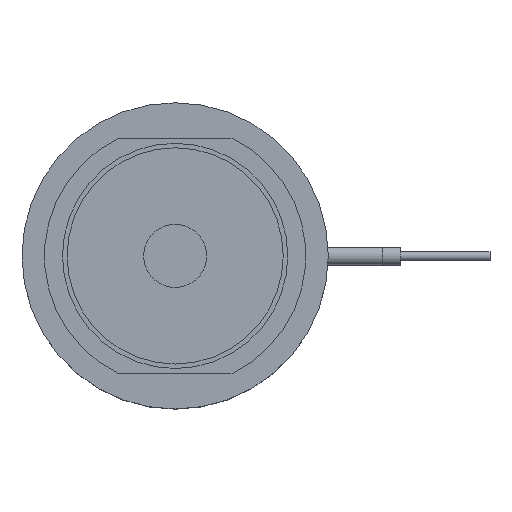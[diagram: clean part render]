
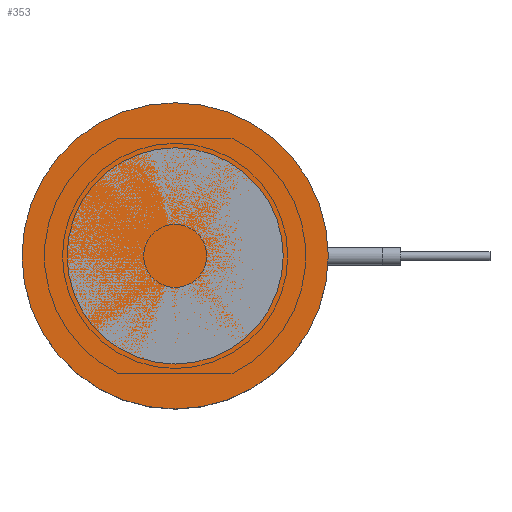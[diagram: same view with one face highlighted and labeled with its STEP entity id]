
A CAD part, top view. The second image highlights one B-rep face of the part: STEP entity #353.
In plain terms, the highlighted planar face has unit normal (0, 0, 1).
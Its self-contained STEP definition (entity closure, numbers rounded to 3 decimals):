
#223=PLANE('',#1203);
#276=FACE_OUTER_BOUND('',#571,.T.);
#353=ADVANCED_FACE('',(#276),#223,.F.);
#571=EDGE_LOOP('',(#785));
#785=ORIENTED_EDGE('',*,*,#986,.F.);
#878=VERTEX_POINT('',#1901);
#986=EDGE_CURVE('',#878,#878,#1057,.T.);
#1057=CIRCLE('',#1202,17.);
#1202=AXIS2_PLACEMENT_3D('',#1900,#1521,#1522);
#1203=AXIS2_PLACEMENT_3D('',#1902,#1523,#1524);
#1521=DIRECTION('',(0.,0.,-1.));
#1522=DIRECTION('',(-1.,0.,0.));
#1523=DIRECTION('',(0.,0.,-1.));
#1524=DIRECTION('',(-1.,0.,0.));
#1900=CARTESIAN_POINT('',(0.,0.,0.));
#1901=CARTESIAN_POINT('',(-17.,0.,0.));
#1902=CARTESIAN_POINT('',(0.,0.,0.));
